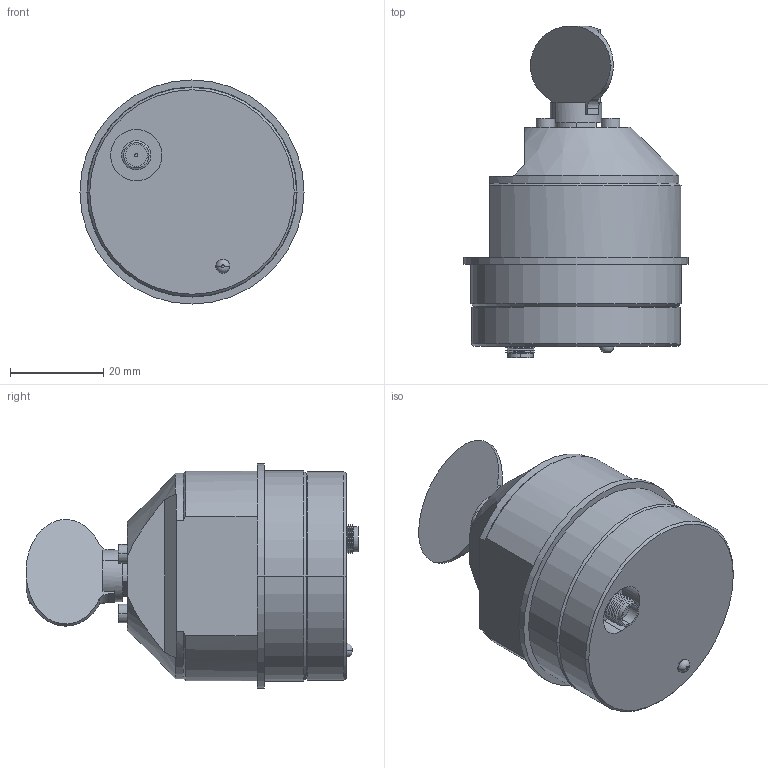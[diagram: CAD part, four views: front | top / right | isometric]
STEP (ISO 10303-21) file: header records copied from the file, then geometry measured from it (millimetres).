
FILE_DESCRIPTION (( 'STEP AP214' ), '1' );
FILE_NAME ('RTAX_A15_SiC.STEP', '2019-06-06T08:05:28', ( '' ), ( '' ), 'SwSTEP 2.0', 'SolidWorks 2011', '' );
FILE_SCHEMA (( 'AUTOMOTIVE_DESIGN' ));
Length unit declared in the file: millimetre
Products named in the file (5): RTAX_A15_SiC; Scanner_Solid; Scanner_Draw10_4; A15_SiC_MirrorX; socket head cap screw_iso_ISO 4762 M2 x 5 --- 5N
Assembly tree (5 placements, depth 2):
  RTAX_A15_SiC
    socket head cap screw_iso_ISO 4762 M2 x 5 --- 5N  x2
    A15_SiC_MirrorX
    Scanner_Draw10_4
    Scanner_Solid
Bounding box: 48 x 71.14 x 48 mm (x, y, z)
Volume: 66466.4 mm3; surface area: 11737.4 mm2
Topology: 5 solids, 5 shells, 206 faces, 462 edges, 280 vertices
Faces by surface type: plane 77, cylinder 60, cone 50, torus 16, bspline 3
Entity records: 6436 total; most frequent: CARTESIAN_POINT 1143, DIRECTION 935, ORIENTED_EDGE 804, EDGE_CURVE 402, AXIS2_PLACEMENT_3D 379, VERTEX_POINT 247, EDGE_LOOP 199, CIRCLE 195
